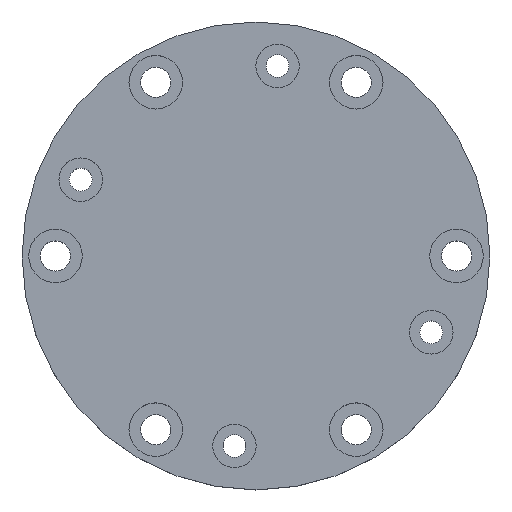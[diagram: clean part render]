
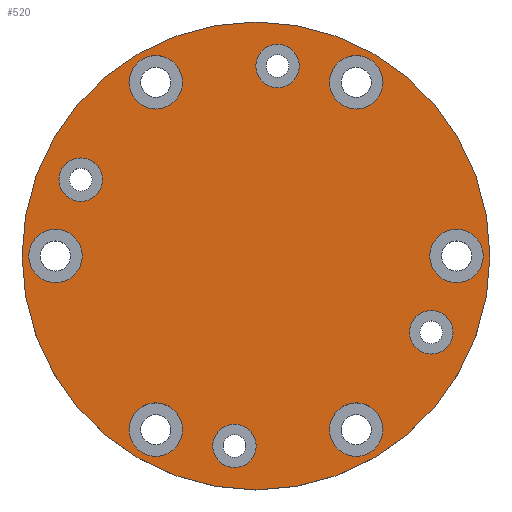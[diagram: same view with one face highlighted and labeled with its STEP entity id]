
A CAD part, top view. The second image highlights one B-rep face of the part: STEP entity #520.
In plain terms, the highlighted planar face has unit normal (0, 0, 1).
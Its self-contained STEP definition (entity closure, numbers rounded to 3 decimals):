
#88=FACE_BOUND('',#183,.T.);
#89=FACE_BOUND('',#184,.T.);
#90=FACE_BOUND('',#185,.T.);
#91=FACE_BOUND('',#186,.T.);
#92=FACE_BOUND('',#187,.T.);
#93=FACE_BOUND('',#188,.T.);
#94=FACE_BOUND('',#189,.T.);
#95=FACE_BOUND('',#190,.T.);
#96=FACE_BOUND('',#191,.T.);
#97=FACE_BOUND('',#192,.T.);
#139=FACE_OUTER_BOUND('',#182,.T.);
#182=EDGE_LOOP('',(#455));
#183=EDGE_LOOP('',(#456));
#184=EDGE_LOOP('',(#457));
#185=EDGE_LOOP('',(#458));
#186=EDGE_LOOP('',(#459));
#187=EDGE_LOOP('',(#460));
#188=EDGE_LOOP('',(#461));
#189=EDGE_LOOP('',(#462));
#190=EDGE_LOOP('',(#463));
#191=EDGE_LOOP('',(#464));
#192=EDGE_LOOP('',(#465));
#206=CIRCLE('',#549,3.25);
#210=CIRCLE('',#556,3.25);
#214=CIRCLE('',#563,3.25);
#218=CIRCLE('',#570,3.25);
#222=CIRCLE('',#577,4.);
#226=CIRCLE('',#584,4.);
#230=CIRCLE('',#591,4.);
#234=CIRCLE('',#598,4.);
#238=CIRCLE('',#605,4.);
#242=CIRCLE('',#612,4.);
#244=CIRCLE('',#616,35.);
#248=VERTEX_POINT('',#800);
#252=VERTEX_POINT('',#813);
#256=VERTEX_POINT('',#826);
#260=VERTEX_POINT('',#839);
#264=VERTEX_POINT('',#852);
#268=VERTEX_POINT('',#865);
#272=VERTEX_POINT('',#878);
#276=VERTEX_POINT('',#891);
#280=VERTEX_POINT('',#904);
#284=VERTEX_POINT('',#917);
#286=VERTEX_POINT('',#925);
#290=EDGE_CURVE('',#248,#248,#206,.T.);
#296=EDGE_CURVE('',#252,#252,#210,.T.);
#302=EDGE_CURVE('',#256,#256,#214,.T.);
#308=EDGE_CURVE('',#260,#260,#218,.T.);
#314=EDGE_CURVE('',#264,#264,#222,.T.);
#320=EDGE_CURVE('',#268,#268,#226,.T.);
#326=EDGE_CURVE('',#272,#272,#230,.T.);
#332=EDGE_CURVE('',#276,#276,#234,.T.);
#338=EDGE_CURVE('',#280,#280,#238,.T.);
#344=EDGE_CURVE('',#284,#284,#242,.T.);
#348=EDGE_CURVE('',#286,#286,#244,.T.);
#455=ORIENTED_EDGE('',*,*,#348,.T.);
#456=ORIENTED_EDGE('',*,*,#290,.T.);
#457=ORIENTED_EDGE('',*,*,#296,.T.);
#458=ORIENTED_EDGE('',*,*,#302,.T.);
#459=ORIENTED_EDGE('',*,*,#308,.T.);
#460=ORIENTED_EDGE('',*,*,#314,.T.);
#461=ORIENTED_EDGE('',*,*,#320,.T.);
#462=ORIENTED_EDGE('',*,*,#326,.T.);
#463=ORIENTED_EDGE('',*,*,#332,.T.);
#464=ORIENTED_EDGE('',*,*,#338,.T.);
#465=ORIENTED_EDGE('',*,*,#344,.T.);
#487=PLANE('',#618);
#520=ADVANCED_FACE('',(#139,#88,#89,#90,#91,#92,#93,#94,#95,#96,#97),#487,
 .T.);
#549=AXIS2_PLACEMENT_3D('',#801,#630,#631);
#556=AXIS2_PLACEMENT_3D('',#814,#646,#647);
#563=AXIS2_PLACEMENT_3D('',#827,#662,#663);
#570=AXIS2_PLACEMENT_3D('',#840,#678,#679);
#577=AXIS2_PLACEMENT_3D('',#853,#694,#695);
#584=AXIS2_PLACEMENT_3D('',#866,#710,#711);
#591=AXIS2_PLACEMENT_3D('',#879,#726,#727);
#598=AXIS2_PLACEMENT_3D('',#892,#742,#743);
#605=AXIS2_PLACEMENT_3D('',#905,#758,#759);
#612=AXIS2_PLACEMENT_3D('',#918,#774,#775);
#616=AXIS2_PLACEMENT_3D('',#926,#784,#785);
#618=AXIS2_PLACEMENT_3D('',#930,#789,#790);
#630=DIRECTION('center_axis',(0.,0.,-1.));
#631=DIRECTION('ref_axis',(1.,0.,0.));
#646=DIRECTION('center_axis',(0.,0.,-1.));
#647=DIRECTION('ref_axis',(1.,0.,0.));
#662=DIRECTION('center_axis',(0.,0.,-1.));
#663=DIRECTION('ref_axis',(1.,0.,0.));
#678=DIRECTION('center_axis',(0.,0.,-1.));
#679=DIRECTION('ref_axis',(1.,0.,0.));
#694=DIRECTION('center_axis',(0.,0.,-1.));
#695=DIRECTION('ref_axis',(1.,0.,0.));
#710=DIRECTION('center_axis',(0.,0.,-1.));
#711=DIRECTION('ref_axis',(1.,0.,0.));
#726=DIRECTION('center_axis',(0.,0.,-1.));
#727=DIRECTION('ref_axis',(1.,0.,0.));
#742=DIRECTION('center_axis',(0.,0.,-1.));
#743=DIRECTION('ref_axis',(1.,0.,0.));
#758=DIRECTION('center_axis',(0.,0.,-1.));
#759=DIRECTION('ref_axis',(1.,0.,0.));
#774=DIRECTION('center_axis',(0.,0.,-1.));
#775=DIRECTION('ref_axis',(1.,0.,0.));
#784=DIRECTION('center_axis',(0.,0.,1.));
#785=DIRECTION('ref_axis',(1.,0.,0.));
#789=DIRECTION('center_axis',(0.,0.,1.));
#790=DIRECTION('ref_axis',(1.,0.,0.));
#800=CARTESIAN_POINT('',(-6.472,-28.419,8.));
#801=CARTESIAN_POINT('Origin',(-3.222,-28.419,8.));
#813=CARTESIAN_POINT('',(-0.028,28.419,8.));
#814=CARTESIAN_POINT('Origin',(3.222,28.419,8.));
#826=CARTESIAN_POINT('',(-29.472,11.419,8.));
#827=CARTESIAN_POINT('Origin',(-26.222,11.419,8.));
#839=CARTESIAN_POINT('',(22.972,-11.419,8.));
#840=CARTESIAN_POINT('Origin',(26.222,-11.419,8.));
#852=CARTESIAN_POINT('',(11.,-25.981,8.));
#853=CARTESIAN_POINT('Origin',(15.,-25.981,8.));
#865=CARTESIAN_POINT('',(11.,25.981,8.));
#866=CARTESIAN_POINT('Origin',(15.,25.981,8.));
#878=CARTESIAN_POINT('',(-34.,0.,8.));
#879=CARTESIAN_POINT('Origin',(-30.,0.,8.));
#891=CARTESIAN_POINT('',(-19.,25.981,8.));
#892=CARTESIAN_POINT('Origin',(-15.,25.981,8.));
#904=CARTESIAN_POINT('',(26.,0.,8.));
#905=CARTESIAN_POINT('Origin',(30.,0.,8.));
#917=CARTESIAN_POINT('',(-19.,-25.981,8.));
#918=CARTESIAN_POINT('Origin',(-15.,-25.981,8.));
#925=CARTESIAN_POINT('',(-35.,0.,8.));
#926=CARTESIAN_POINT('Origin',(0.,0.,8.));
#930=CARTESIAN_POINT('Origin',(0.,0.,8.));
